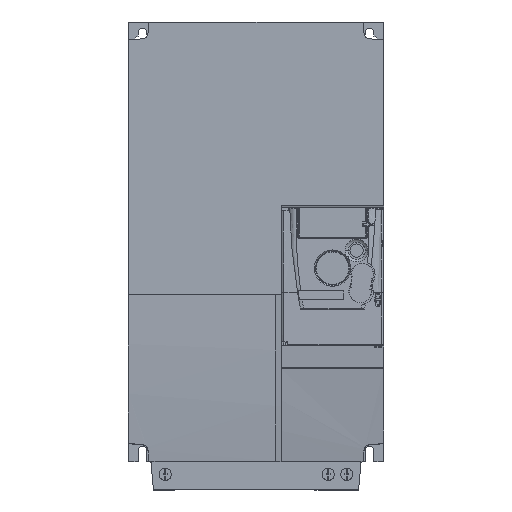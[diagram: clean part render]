
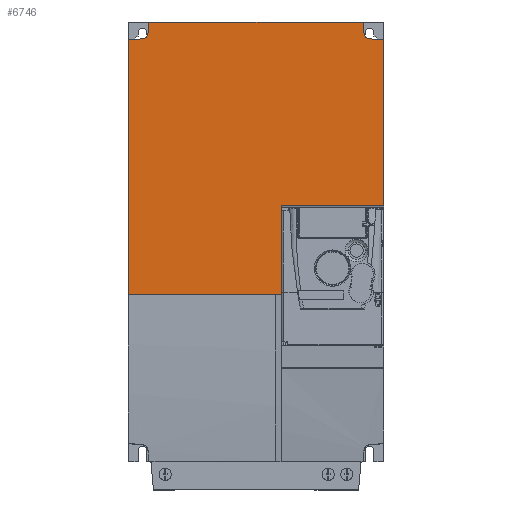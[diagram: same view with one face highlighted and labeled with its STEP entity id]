
A CAD part, top view. The second image highlights one B-rep face of the part: STEP entity #6746.
In plain terms, the highlighted planar face has unit normal (0, 0, 1) as drawn and (0, 1, 0) by its records, which use the part's own axes.
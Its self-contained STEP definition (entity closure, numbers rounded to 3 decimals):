
#5194=DIRECTION('',(0.,0.,-1.));
#5195=VECTOR('',#5194,62.2);
#5196=CARTESIAN_POINT('',(17.703,190.,37.));
#5197=LINE('',#5196,#5195);
#5220=DIRECTION('',(1.,0.,0.));
#5221=VECTOR('',#5220,107.703);
#5222=CARTESIAN_POINT('',(-90.,190.,37.));
#5223=LINE('',#5222,#5221);
#5232=DIRECTION('',(0.,0.,1.));
#5233=VECTOR('',#5232,179.3);
#5234=CARTESIAN_POINT('',(-90.,190.,-142.3));
#5235=LINE('',#5234,#5233);
#5380=DIRECTION('',(-1.,0.,0.));
#5381=VECTOR('',#5380,151.);
#5382=CARTESIAN_POINT('',(75.5,190.,-155.));
#5383=LINE('',#5382,#5381);
#5400=DIRECTION('',(0.,0.,-1.));
#5401=VECTOR('',#5400,117.1);
#5402=CARTESIAN_POINT('',(90.,190.,-25.2));
#5403=LINE('',#5402,#5401);
#5470=DIRECTION('',(0.996,0.,-0.087));
#5471=VECTOR('',#5470,10.187);
#5472=CARTESIAN_POINT('',(-90.,190.,-142.3));
#5473=LINE('',#5472,#5471);
#5474=CARTESIAN_POINT('',(-80.2,190.,-147.173));
#5475=DIRECTION('',(0.,1.,0.));
#5476=DIRECTION('',(0.087,0.,0.996));
#5477=AXIS2_PLACEMENT_3D('',#5474,#5475,#5476);
#5479=DIRECTION('',(0.087,0.,-0.996));
#5480=VECTOR('',#5479,8.207);
#5481=CARTESIAN_POINT('',(-76.215,190.,-146.824));
#5482=LINE('',#5481,#5480);
#5483=DIRECTION('',(0.087,0.,0.996));
#5484=VECTOR('',#5483,8.207);
#5485=CARTESIAN_POINT('',(75.5,190.,-155.));
#5486=LINE('',#5485,#5484);
#5487=CARTESIAN_POINT('',(80.2,190.,-147.173));
#5488=DIRECTION('',(0.,1.,0.));
#5489=DIRECTION('',(-0.996,0.,0.087));
#5490=AXIS2_PLACEMENT_3D('',#5487,#5488,#5489);
#5492=DIRECTION('',(0.996,0.,0.087));
#5493=VECTOR('',#5492,10.187);
#5494=CARTESIAN_POINT('',(79.851,190.,-143.188));
#5495=LINE('',#5494,#5493);
#5496=DIRECTION('',(-1.,0.,0.));
#5497=VECTOR('',#5496,72.297);
#5498=CARTESIAN_POINT('',(90.,190.,-25.2));
#5499=LINE('',#5498,#5497);
#5626=CARTESIAN_POINT('',(-90.,190.,-142.3));
#5627=VERTEX_POINT('',#5626);
#5628=CARTESIAN_POINT('',(-90.,190.,37.));
#5629=VERTEX_POINT('',#5628);
#5632=CARTESIAN_POINT('',(17.703,190.,37.));
#5633=VERTEX_POINT('',#5632);
#5634=CARTESIAN_POINT('',(-79.851,190.,-143.188));
#5635=VERTEX_POINT('',#5634);
#5636=CARTESIAN_POINT('',(-76.215,190.,-146.824));
#5637=VERTEX_POINT('',#5636);
#5638=CARTESIAN_POINT('',(-75.5,190.,-155.));
#5639=VERTEX_POINT('',#5638);
#5640=CARTESIAN_POINT('',(75.5,190.,-155.));
#5641=VERTEX_POINT('',#5640);
#5642=CARTESIAN_POINT('',(76.215,190.,-146.824));
#5643=VERTEX_POINT('',#5642);
#5644=CARTESIAN_POINT('',(79.851,190.,-143.188));
#5645=VERTEX_POINT('',#5644);
#5646=CARTESIAN_POINT('',(90.,190.,-142.3));
#5647=VERTEX_POINT('',#5646);
#5648=CARTESIAN_POINT('',(90.,190.,-25.2));
#5649=VERTEX_POINT('',#5648);
#5650=CARTESIAN_POINT('',(17.703,190.,-25.2));
#5651=VERTEX_POINT('',#5650);
#6727=CARTESIAN_POINT('',(-90.,190.,155.));
#6728=DIRECTION('',(0.,1.,0.));
#6729=DIRECTION('',(1.,0.,0.));
#6730=AXIS2_PLACEMENT_3D('',#6727,#6728,#6729);
#6731=PLANE('',#6730);
#6732=ORIENTED_EDGE('',*,*,#6304,.F.);
#6733=ORIENTED_EDGE('',*,*,#6323,.F.);
#6734=ORIENTED_EDGE('',*,*,#6519,.T.);
#6735=ORIENTED_EDGE('',*,*,#6533,.T.);
#6736=ORIENTED_EDGE('',*,*,#6547,.T.);
#6737=ORIENTED_EDGE('',*,*,#6561,.F.);
#6738=ORIENTED_EDGE('',*,*,#6575,.T.);
#6739=ORIENTED_EDGE('',*,*,#6589,.T.);
#6740=ORIENTED_EDGE('',*,*,#6603,.T.);
#6741=ORIENTED_EDGE('',*,*,#6616,.F.);
#6742=ORIENTED_EDGE('',*,*,#6641,.T.);
#6743=ORIENTED_EDGE('',*,*,#6280,.F.);
#6744=EDGE_LOOP('',(#6732,#6733,#6734,#6735,#6736,#6737,#6738,#6739,#6740,#6741,
#6742,#6743));
#6745=FACE_OUTER_BOUND('',#6744,.F.);
#6746=ADVANCED_FACE('',(#6745),#6731,.T.);
#5478=CIRCLE('',#5477,4.);
#5491=CIRCLE('',#5490,4.);
#6280=EDGE_CURVE('',#5633,#5651,#5197,.T.);
#6304=EDGE_CURVE('',#5629,#5633,#5223,.T.);
#6323=EDGE_CURVE('',#5627,#5629,#5235,.T.);
#6519=EDGE_CURVE('',#5627,#5635,#5473,.T.);
#6533=EDGE_CURVE('',#5635,#5637,#5478,.T.);
#6547=EDGE_CURVE('',#5637,#5639,#5482,.T.);
#6561=EDGE_CURVE('',#5641,#5639,#5383,.T.);
#6575=EDGE_CURVE('',#5641,#5643,#5486,.T.);
#6589=EDGE_CURVE('',#5643,#5645,#5491,.T.);
#6603=EDGE_CURVE('',#5645,#5647,#5495,.T.);
#6616=EDGE_CURVE('',#5649,#5647,#5403,.T.);
#6641=EDGE_CURVE('',#5649,#5651,#5499,.T.);
